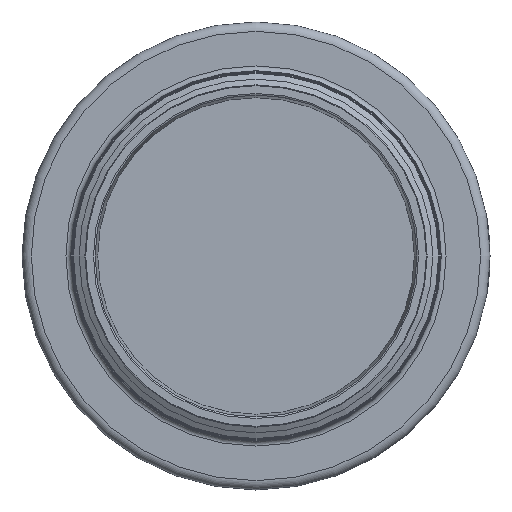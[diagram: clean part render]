
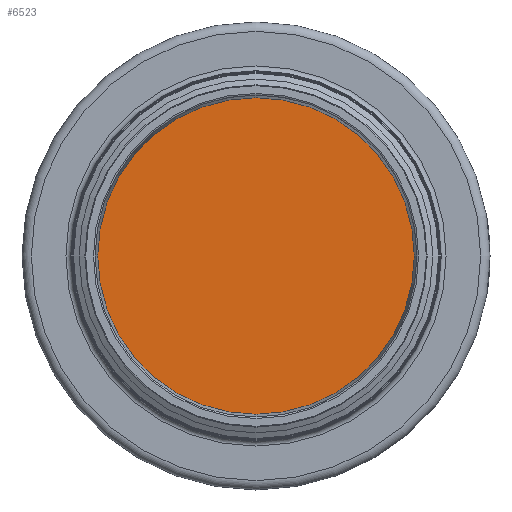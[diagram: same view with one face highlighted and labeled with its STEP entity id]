
A CAD part, left-side view. The second image highlights one B-rep face of the part: STEP entity #6523.
In plain terms, the highlighted planar face has unit normal (-1, 0, 0).
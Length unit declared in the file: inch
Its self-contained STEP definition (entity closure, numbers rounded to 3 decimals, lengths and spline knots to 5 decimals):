
#856=PLANE('',#6987);
#2118=ORIENTED_EDGE('',*,*,#2292,.T.);
#2292=EDGE_CURVE('',#2905,#2905,#3232,.T.);
#2905=VERTEX_POINT('',#8691);
#3232=CIRCLE('',#6596,1.0149);
#3747=EDGE_LOOP('',(#2118));
#4147=FACE_BOUND('',#3747,.T.);
#6523=ADVANCED_FACE('',(#4147),#856,.T.);
#6596=AXIS2_PLACEMENT_3D('',#8690,#7186,#7187);
#6987=AXIS2_PLACEMENT_3D('',#11034,#8122,#8123);
#7186=DIRECTION('',(-1.,0.,0.));
#7187=DIRECTION('',(0.,0.,1.));
#8122=DIRECTION('',(-1.,0.,0.));
#8123=DIRECTION('',(0.,0.,1.));
#8690=CARTESIAN_POINT('',(0.0927,0.,0.));
#8691=CARTESIAN_POINT('',(0.0927,0.,1.0149));
#11034=CARTESIAN_POINT('',(0.0927,0.,0.81));
